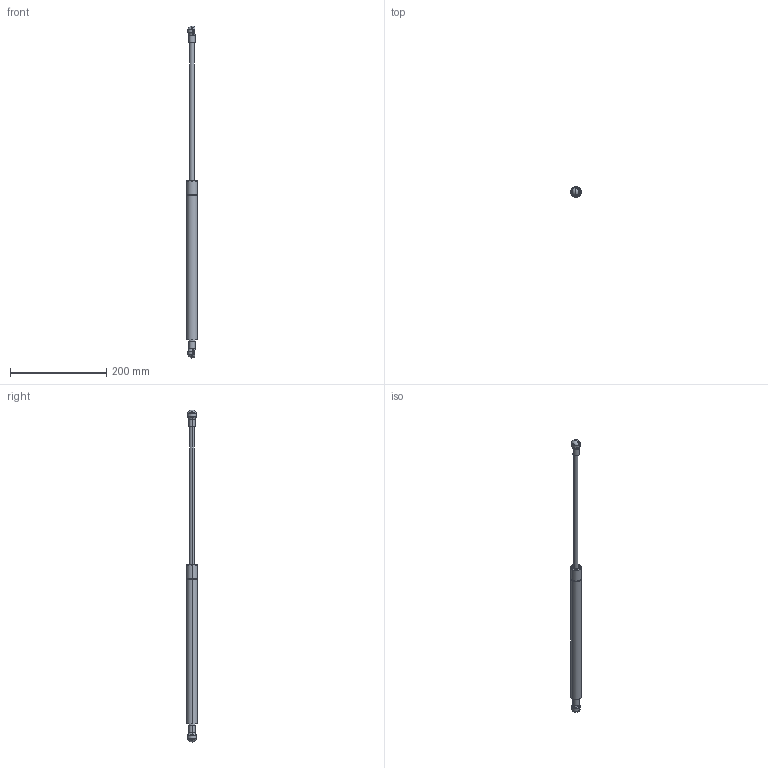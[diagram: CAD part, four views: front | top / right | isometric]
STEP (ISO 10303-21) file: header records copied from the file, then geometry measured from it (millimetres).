
FILE_DESCRIPTION (( 'STEP AP214' ), '1' );
FILE_NAME ('GS10-1075MD13.STEP', '2011-03-30T20:07:56', ( 'user' ), ( '' ), 'SwSTEP 2.0', 'SolidWorks 2011', '' );
FILE_SCHEMA (( 'AUTOMOTIVE_DESIGN' ));
Length unit declared in the file: millimetre
Products named in the file (5): d_socket; GS10-1075MD13-NC; GS10-1075MD13-SHAFT; GS10-1075MD13-TUBE; GS10-1075MD13
Assembly tree (5 placements, depth 3):
  GS10-1075MD13
    d_socket  x2
    GS10-1075MD13-NC
      GS10-1075MD13-SHAFT
      GS10-1075MD13-TUBE
Bounding box: 22 x 22 x 689 mm (x, y, z)
Volume: 133639.1 mm3; surface area: 48368.6 mm2
Topology: 4 solids, 6 shells, 179 faces, 520 edges, 340 vertices
Faces by surface type: plane 67, cylinder 66, cone 20, sphere 16, torus 10
Entity records: 4460 total; most frequent: CARTESIAN_POINT 779, DIRECTION 601, ORIENTED_EDGE 556, EDGE_CURVE 278, AXIS2_PLACEMENT_3D 248, VERTEX_POINT 182, CIRCLE 137, EDGE_LOOP 110
